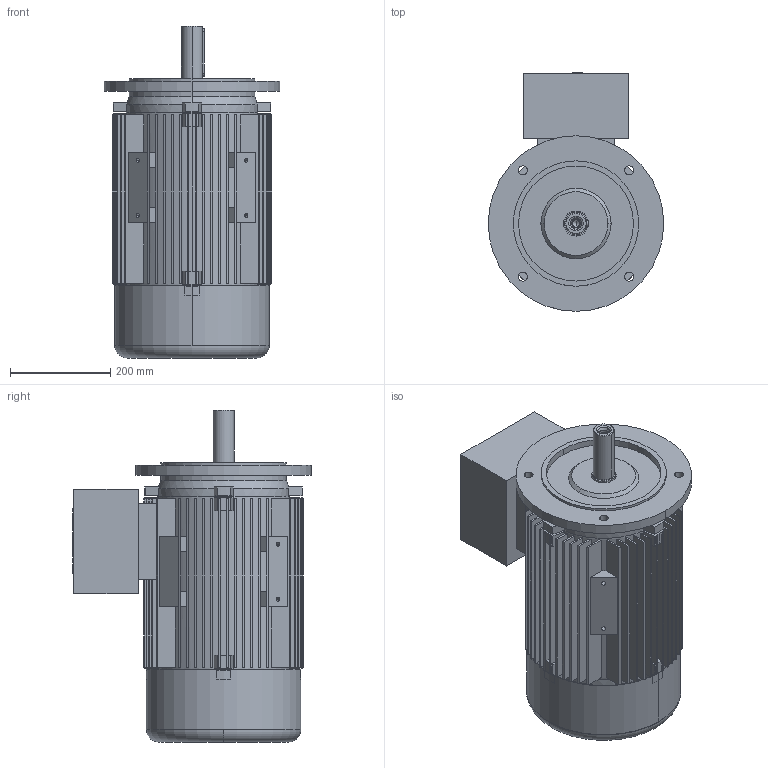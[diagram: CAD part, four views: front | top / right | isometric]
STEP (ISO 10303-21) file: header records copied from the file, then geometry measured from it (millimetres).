
FILE_DESCRIPTION (( 'STEP AP214' ), '1' );
FILE_NAME ('20.17504_B 7AT 160M&L B5 Exde STANDK.STEP', '2019-11-29T06:53:02', ( '' ), ( '' ), 'SwSTEP 2.0', 'SolidWorks 2019', '' );
FILE_SCHEMA (( 'AUTOMOTIVE_DESIGN' ));
Length unit declared in the file: millimetre
Products named in the file (8): 20.17504_B 7AT 160M&L B5 STANDK_2; 20.17504_B 7AT 160M&L B5 STANDK_6; 20.17504_B 7AT 160M&L B5 Exde STANDK; 20.17504_B 7AT 160M&L B5 STANDK_4; 20.17504_B 7AT 160M&L B5 STANDK; 20.17504_B 7AT 160M&L B5 STANDK_7; 20.17504_B 7AT 160M&L B5 STANDK_5; 20.17504_B 7AT 160M&L B5 STANDK_3
Assembly tree (7 placements, depth 2):
  20.17504_B 7AT 160M&L B5 Exde STANDK
    20.17504_B 7AT 160M&L B5 STANDK
    20.17504_B 7AT 160M&L B5 STANDK_2
    20.17504_B 7AT 160M&L B5 STANDK_3
    20.17504_B 7AT 160M&L B5 STANDK_4
    20.17504_B 7AT 160M&L B5 STANDK_5
    20.17504_B 7AT 160M&L B5 STANDK_6
    20.17504_B 7AT 160M&L B5 STANDK_7
Bounding box: 350 x 476 x 662 mm (x, y, z)
Volume: 16398256.4 mm3; surface area: 2734902.1 mm2
Topology: 7 solids, 7 shells, 702 faces, 1909 edges, 1263 vertices
Faces by surface type: plane 494, cylinder 165, cone 30, bspline 9, torus 4
Entity records: 30462 total; most frequent: CARTESIAN_POINT 4201, DIRECTION 3879, ORIENTED_EDGE 3798, EDGE_CURVE 1899, AXIS2_PLACEMENT_3D 1313, VERTEX_POINT 1263, LINE 1253, VECTOR 1253
